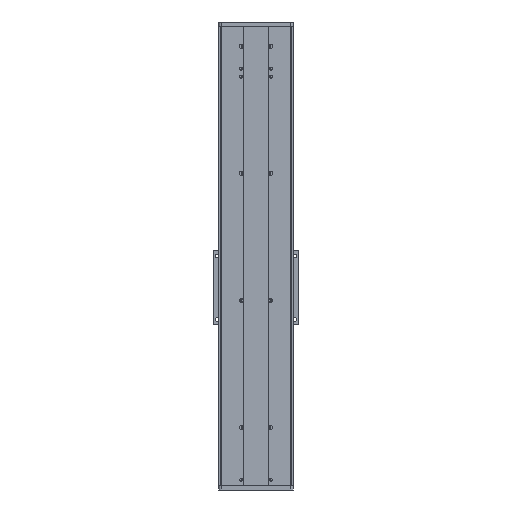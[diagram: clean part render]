
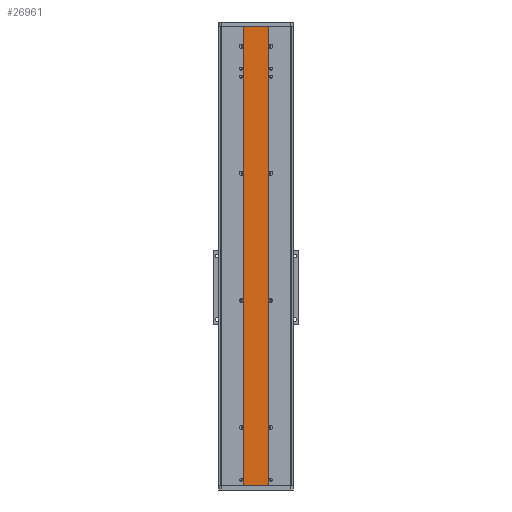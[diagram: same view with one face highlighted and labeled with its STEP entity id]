
A CAD part, front view. The second image highlights one B-rep face of the part: STEP entity #26961.
In plain terms, the highlighted planar face has unit normal (0, -1, 0).
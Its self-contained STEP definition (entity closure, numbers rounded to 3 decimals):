
#379 = DIRECTION ( 'NONE',  ( 0., 0., -1. ) ) ;
#1030 = DIRECTION ( 'NONE',  ( 1., 0., 0. ) ) ;
#2403 = VERTEX_POINT ( 'NONE', #48606 ) ;
#5460 = CARTESIAN_POINT ( 'NONE',  ( 58.27, -78.814, 0. ) ) ;
#9532 = FACE_OUTER_BOUND ( 'NONE', #21887, .T. ) ;
#10103 = EDGE_CURVE ( 'NONE', #23032, #42301, #49920, .T. ) ;
#11183 = EDGE_CURVE ( 'NONE', #46718, #42301, #31950, .T. ) ;
#11529 = VECTOR ( 'NONE', #379, 1000. ) ;
#11610 = AXIS2_PLACEMENT_3D ( 'NONE', #47679, #15204, #43772 ) ;
#11900 = EDGE_CURVE ( 'NONE', #2403, #46718, #40230, .T. ) ;
#13331 = CARTESIAN_POINT ( 'NONE',  ( 0., -78.814, 0. ) ) ;
#15204 = DIRECTION ( 'NONE',  ( 0., -1., 0. ) ) ;
#17375 = VECTOR ( 'NONE', #1030, 1000. ) ;
#17805 = CARTESIAN_POINT ( 'NONE',  ( 0., -78.814, 1085. ) ) ;
#19795 = VECTOR ( 'NONE', #50260, 1000. ) ;
#20707 = CARTESIAN_POINT ( 'NONE',  ( 58.27, -78.814, 1745. ) ) ;
#21887 = EDGE_LOOP ( 'NONE', ( #37326, #47184, #34883, #45401 ) ) ;
#23032 = VERTEX_POINT ( 'NONE', #37443 ) ;
#26535 = VECTOR ( 'NONE', #41150, 1000. ) ;
#26961 = ADVANCED_FACE ( 'NONE', ( #9532 ), #39663, .T. ) ;
#27780 = CARTESIAN_POINT ( 'NONE',  ( 58.27, -78.814, 1085. ) ) ;
#31950 = LINE ( 'NONE', #20707, #11529 ) ;
#34883 = ORIENTED_EDGE ( 'NONE', *, *, #11183, .F. ) ;
#36392 = EDGE_CURVE ( 'NONE', #2403, #23032, #48289, .T. ) ;
#37326 = ORIENTED_EDGE ( 'NONE', *, *, #36392, .T. ) ;
#37443 = CARTESIAN_POINT ( 'NONE',  ( 1.27, -78.814, 0. ) ) ;
#39663 = PLANE ( 'NONE',  #11610 ) ;
#40230 = LINE ( 'NONE', #17805, #19795 ) ;
#41150 = DIRECTION ( 'NONE',  ( 0., 0., -1. ) ) ;
#42301 = VERTEX_POINT ( 'NONE', #5460 ) ;
#43772 = DIRECTION ( 'NONE',  ( 0., 0., -1. ) ) ;
#45401 = ORIENTED_EDGE ( 'NONE', *, *, #11900, .F. ) ;
#46718 = VERTEX_POINT ( 'NONE', #27780 ) ;
#47184 = ORIENTED_EDGE ( 'NONE', *, *, #10103, .T. ) ;
#47679 = CARTESIAN_POINT ( 'NONE',  ( 1.27, -78.814, 1745. ) ) ;
#48289 = LINE ( 'NONE', #49151, #26535 ) ;
#48606 = CARTESIAN_POINT ( 'NONE',  ( 1.27, -78.814, 1085. ) ) ;
#49151 = CARTESIAN_POINT ( 'NONE',  ( 1.27, -78.814, 1745. ) ) ;
#49920 = LINE ( 'NONE', #13331, #17375 ) ;
#50260 = DIRECTION ( 'NONE',  ( 1., 0., 0. ) ) ;
